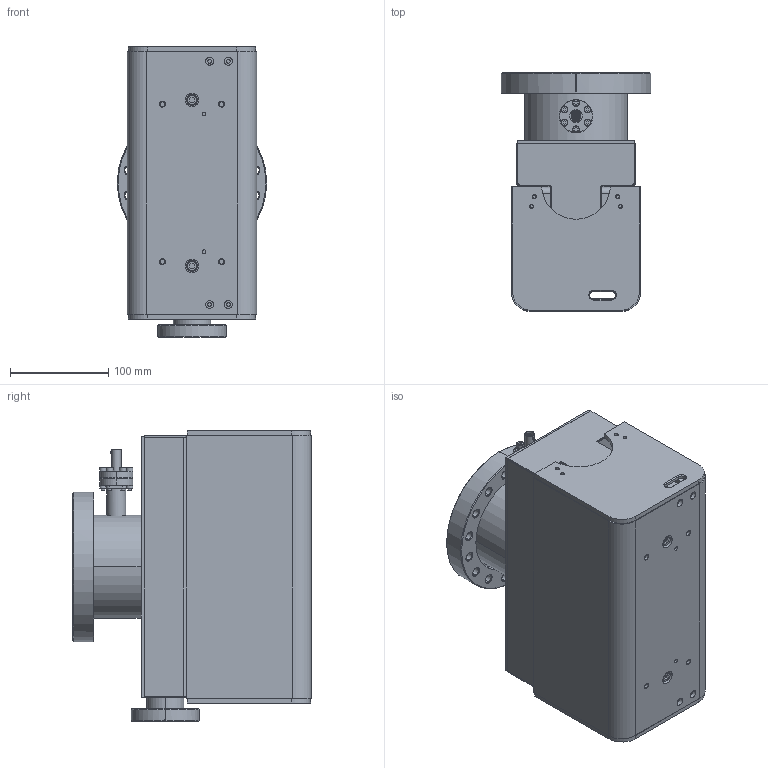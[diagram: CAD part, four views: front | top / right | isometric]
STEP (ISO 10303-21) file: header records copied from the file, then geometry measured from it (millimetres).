
FILE_DESCRIPTION((''),'2;1');
FILE_NAME('PRT0001','2020-12-02T15:03:07',('langebj'),('Gamma Vacuum, LLC'),'CREO PARAMETRIC BY PTC INC, 2020044','CREO PARAMETRIC BY PTC INC, 2020044','');
FILE_SCHEMA(('AUTOMOTIVE_DESIGN { 1 0 10303 214 1 1 1 1 }'));
Products named in the file (1): PRT0001
Bounding box: 151.64 x 242 x 295.08 mm (x, y, z)
Surface area: 719934.8 mm2 (no closed solid volume)
Topology: 0 solids, 0 shells, 1189 faces, 6004 edges, 5970 vertices
Faces by surface type: cylinder 489, plane 416, cone 236, torus 44, bspline 2, sphere 2
Entity records: 88707 total; most frequent: CARTESIAN_POINT 22059, DIRECTION 11458, TRIMMED_CURVE 7654, VECTOR 6241, LINE 6241, DEFINITIONAL_REPRESENTATION 5938, PCURVE 5938, COMPOSITE_CURVE_SEGMENT 5938
